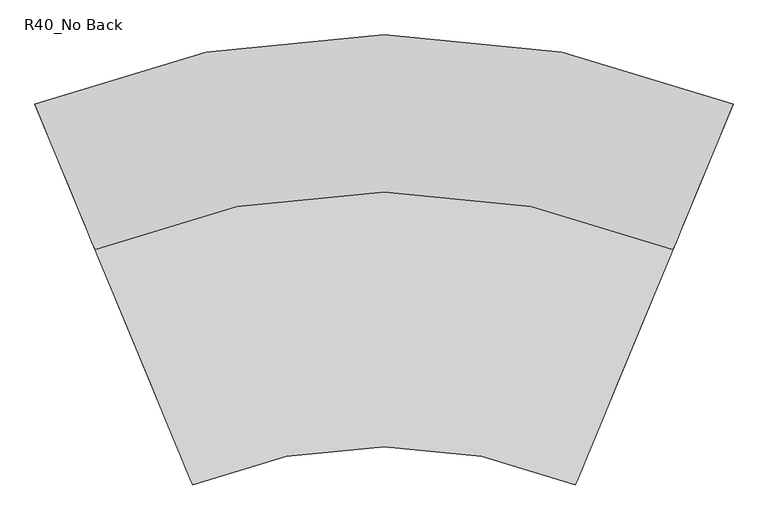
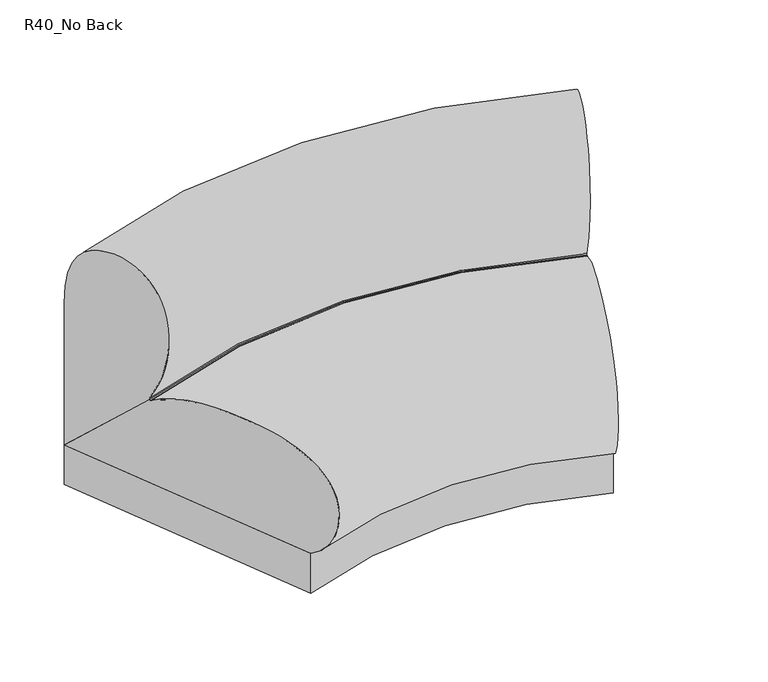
"""IFC4 building model written with IfcOpenShell, lengths in millimetres: furniture geometry, Memo_Candy_CurveInside_R40 : R40_No Back."""

from ifc_helpers import new_model, si_unit, point, frame, frame_2d, origin, origin_with_axes, place, context, project, spatial, polyline, circle_curve, ellipse_curve, trimmed, segment, composite_curve, outline, extrude, source, transform, mapped, element, save
from ifc_brep_helpers import plane_surface, cylinder_surface, revolved_surface, spline_curve, advanced_brep


def r40_no_back_c89d3c7e(model_context):
    return source(origin(), model_context, "Body", "SolidModel", [
        advanced_brep(
        [(-731.4419785, 254.5571445, 130.8862), (-628.9674702, 7.1617968, 382.770933), (-629.1154234, 7.5189875, 386.6180112), (-731.4419785, 254.5571445, 562.6862), (731.4419785, 254.5571445, 130.8862), (731.4419785, 254.5571445, 562.6862), (629.1154234, 7.5189875, 386.6180112), (628.9674702, 7.1617968, 382.770933)],
        [
            (0, 1),
            (1, 2, circle_curve(frame((-628.0824579, 5.0251882, 384.9463138), z_axis=(0.9238795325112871, 0.38268343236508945, 0.0), x_axis=(-0.38268343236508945, 0.9238795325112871, 0.0)), 3.175)),
            (2, 3, spline_curve(3, [(-629.1154234, 7.5189875, 386.6180112), (-616.613307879, -22.663789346, 439.369212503), (-609.589379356, -39.621052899, 487.129586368), (-602.93956843, -55.675116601, 603.825037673), (-606.819796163, -46.307418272, 674.263665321), (-634.747423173, 21.115837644, 768.908542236), (-660.286457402, 82.772520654, 789.248467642), (-708.619406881, 199.458582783, 756.110862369), (-731.4419785, 254.5571445, 709.516352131), (-731.4419785, 254.5571445, 562.6862)], [4, 2, 2, 2, 4], [0.0, 0.4185569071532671, 0.9855194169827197, 1.5950308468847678, 2.146168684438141])),
            (3, 0),
            (4, 5),
            (5, 6, spline_curve(3, [(731.4419785, 254.5571445, 562.6862), (731.4419785, 254.5571445, 709.516352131), (708.619406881, 199.458582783, 756.110862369), (660.286457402, 82.772520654, 789.248467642), (634.747423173, 21.115837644, 768.908542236), (606.819796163, -46.307418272, 674.263665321), (602.93956843, -55.675116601, 603.825037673), (609.589379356, -39.621052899, 487.129586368), (616.613307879, -22.663789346, 439.369212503), (629.1154234, 7.5189875, 386.6180112)], [4, 2, 2, 2, 4], [0.0, 0.5511378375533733, 1.1606492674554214, 1.727611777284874, 2.146168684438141])),
            (6, 7, circle_curve(frame((628.0824579, 5.0251882, 384.9463138), z_axis=(-0.9238795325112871, 0.38268343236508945, 0.0), x_axis=(0.38268343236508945, 0.9238795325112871, 0.0)), 3.175)),
            (7, 4),
            (7, 1, circle_curve(frame((0.0, -1511.3, 382.770933), z_axis=(0.0, 0.0, 1.0), x_axis=(-0.38268343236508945, 0.9238795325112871, 0.0)), 1643.5712053)),
            (0, 4, circle_curve(frame((0.0, -1511.3, 130.8862), z_axis=(0.0, 0.0, -1.0), x_axis=(-0.38268343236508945, 0.9238795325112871, 0.0)), 1911.35)),
            (6, 2, circle_curve(frame((0.0, -1511.3, 386.6180112), z_axis=(0.0, 0.0, 1.0), x_axis=(-0.38268343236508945, 0.9238795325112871, 0.0)), 1643.9578258)),
            (5, 3, circle_curve(frame((0.0, -1511.3, 562.6862), z_axis=(0.0, 0.0, 1.0), x_axis=(-0.38268343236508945, 0.9238795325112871, 0.0)), 1911.35)),
        ],
        [
            plane_surface(frame((0.0, -1511.3, -101.6), z_axis=(-0.923879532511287, -0.3826834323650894, 0.0), x_axis=(-0.3826834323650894, 0.923879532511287, 0.0))),
            plane_surface(frame((0.0, -1511.3, -101.6), z_axis=(0.923879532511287, -0.3826834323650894, 0.0), x_axis=(0.3826834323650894, 0.923879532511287, 0.0))),
            revolved_surface(polyline([(-628.9674702, 7.1617968, 382.770933), (-731.4419785, 254.5571445, 130.8862)]), (0.0, -1511.3, -101.6), (0.0, 0.0, 1.0)),
            revolved_surface(trimmed(ellipse_curve(frame((-628.0824579, 5.0251882, 384.9463138), z_axis=(-0.9238795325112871, -0.38268343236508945, 0.0), x_axis=(-0.38268343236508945, 0.9238795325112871, 0.0)), 3.175, 3.175), [point((-629.1154234, 7.5189875, 386.6180112))], [point((-628.9674702, 7.1617968, 382.770933))], True, "CARTESIAN"), (0.0, -1511.3, -101.6), (0.0, 0.0, 1.0)),
            revolved_surface(spline_curve(3, [(-731.4419785, 254.5571445, 562.6862), (-731.4419785, 254.5571445, 709.516352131), (-708.619406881, 199.458582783, 756.110862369), (-660.286457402, 82.772520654, 789.248467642), (-634.747423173, 21.115837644, 768.908542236), (-606.819796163, -46.307418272, 674.263665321), (-602.93956843, -55.675116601, 603.825037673), (-609.589379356, -39.621052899, 487.129586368), (-616.613307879, -22.663789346, 439.369212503), (-629.1154234, 7.5189875, 386.6180112)], [4, 2, 2, 2, 4], [0.0, 0.5511378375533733, 1.1606492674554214, 1.727611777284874, 2.146168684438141]), (0.0, -1511.3, -101.6), (0.0, 0.0, 1.0)),
            cylinder_surface(frame((0.0, -1511.3, -101.6), z_axis=(0.0, 0.0, 1.0), x_axis=(-0.38268343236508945, 0.9238795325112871, 0.0)), 1911.35),
        ],
        [
            (0, [[1, 2, 3, 4]]),
            (1, [[5, 6, 7, 8]]),
            (2, [[9, -1, 10, -8]]),
            (3, [[11, -2, -9, -7]]),
            (4, [[12, -3, -11, -6]]),
            (5, [[-10, -4, -12, -5]]),
        ],
    ),
        advanced_brep(
        [(-731.4419785, 254.5571445, 130.8862), (-434.9771234, -461.1723294, 130.8862), (-626.901641, 2.174444, 383.1727272), (-627.4163038, 3.4169498, 382.2910487), (-628.9674702, 7.1617968, 382.770933), (731.4419785, 254.5571445, 130.8862), (628.9674702, 7.1617968, 382.770933), (627.4163038, 3.4169498, 382.2910487), (626.901641, 2.174444, 383.1727272), (434.9771234, -461.1723294, 130.8862)],
        [
            (0, 1),
            (1, 2, spline_curve(3, [(-434.9771234, -461.1723294, 130.8862), (-407.685661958, -527.05974575, 170.417318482), (-399.983616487, -545.654128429, 240.606468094), (-402.32453207, -540.002658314, 357.685536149), (-417.575648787, -503.183205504, 393.569418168), (-457.445877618, -406.927958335, 443.81214514), (-483.082653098, -345.035307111, 454.422655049), (-553.600502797, -174.790157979, 449.084914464), (-596.174348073, -72.007803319, 435.812236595), (-626.901641, 2.174444, 383.1727272)], [4, 2, 2, 2, 4], [0.0, 0.4418974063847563, 1.0001856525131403, 1.637190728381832, 2.2072085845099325])),
            (2, 3),
            (3, 4, circle_curve(frame((-628.0824579, 5.0251882, 384.9463138), z_axis=(0.9238795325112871, 0.38268343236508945, 0.0), x_axis=(-0.38268343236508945, 0.9238795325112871, 0.0)), 3.175)),
            (4, 0),
            (5, 6),
            (6, 7, circle_curve(frame((628.0824579, 5.0251882, 384.9463138), z_axis=(-0.9238795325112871, 0.38268343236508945, 0.0), x_axis=(0.38268343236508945, 0.9238795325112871, 0.0)), 3.175)),
            (7, 8),
            (8, 9, spline_curve(3, [(626.901641, 2.174444, 383.1727272), (596.174348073, -72.007803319, 435.812236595), (553.600502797, -174.790157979, 449.084914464), (483.082653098, -345.035307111, 454.422655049), (457.445877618, -406.927958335, 443.81214514), (417.575648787, -503.183205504, 393.569418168), (402.32453207, -540.002658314, 357.685536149), (399.983616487, -545.654128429, 240.606468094), (407.685661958, -527.05974575, 170.417318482), (434.9771234, -461.1723294, 130.8862)], [4, 2, 2, 2, 4], [0.0, 0.5700178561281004, 1.2070229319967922, 1.7653111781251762, 2.2072085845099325])),
            (9, 5),
            (9, 1, circle_curve(frame((0.0, -1511.3, 130.8862), z_axis=(0.0, 0.0, 1.0), x_axis=(-0.38268343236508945, 0.9238795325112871, 0.0)), 1136.65)),
            (0, 5, circle_curve(frame((0.0, -1511.3, 130.8862), z_axis=(0.0, 0.0, -1.0), x_axis=(-0.38268343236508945, 0.9238795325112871, 0.0)), 1911.35)),
            (8, 2, circle_curve(frame((0.0, -1511.3, 383.1727272), z_axis=(0.0, 0.0, 1.0), x_axis=(-0.38268343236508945, 0.9238795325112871, 0.0)), 1638.1729335)),
            (7, 3, circle_curve(frame((0.0, -1511.3, 382.2910487), z_axis=(0.0, 0.0, 1.0), x_axis=(-0.38268343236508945, 0.9238795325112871, 0.0)), 1639.5178121)),
            (6, 4, circle_curve(frame((0.0, -1511.3, 382.770933), z_axis=(0.0, 0.0, 1.0), x_axis=(-0.38268343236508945, 0.9238795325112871, 0.0)), 1643.5712053)),
        ],
        [
            plane_surface(frame((0.0, -1511.3, -173.9138), z_axis=(-0.923879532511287, -0.3826834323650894, 0.0), x_axis=(-0.3826834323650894, 0.923879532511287, 0.0))),
            plane_surface(frame((0.0, -1511.3, -173.9138), z_axis=(0.923879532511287, -0.3826834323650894, 0.0), x_axis=(0.3826834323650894, 0.923879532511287, 0.0))),
            plane_surface(frame((0.0, -1511.3, 130.8862), z_axis=(0.0, 0.0, -1.0), x_axis=(-0.3826834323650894, 0.923879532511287, 0.0))),
            revolved_surface(spline_curve(3, [(-626.901641, 2.174444, 383.1727272), (-596.174348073, -72.007803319, 435.812236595), (-553.600502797, -174.790157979, 449.084914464), (-483.082653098, -345.035307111, 454.422655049), (-457.445877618, -406.927958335, 443.81214514), (-417.575648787, -503.183205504, 393.569418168), (-402.32453207, -540.002658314, 357.685536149), (-399.983616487, -545.654128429, 240.606468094), (-407.685661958, -527.05974575, 170.417318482), (-434.9771234, -461.1723294, 130.8862)], [4, 2, 2, 2, 4], [0.0, 0.5700178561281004, 1.2070229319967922, 1.7653111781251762, 2.2072085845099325]), (0.0, -1511.3, -173.9138), (0.0, 0.0, 1.0)),
            revolved_surface(polyline([(-627.4163038, 3.4169498, 382.2910487), (-626.901641, 2.174444, 383.1727272)]), (0.0, -1511.3, -173.9138), (0.0, 0.0, 1.0)),
            revolved_surface(trimmed(ellipse_curve(frame((-628.0824579, 5.0251882, 384.9463138), z_axis=(-0.9238795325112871, -0.38268343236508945, 0.0), x_axis=(-0.38268343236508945, 0.9238795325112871, 0.0)), 3.175, 3.175), [point((-628.9674702, 7.1617968, 382.770933))], [point((-627.4163038, 3.4169498, 382.2910487))], True, "CARTESIAN"), (0.0, -1511.3, -173.9138), (0.0, 0.0, 1.0)),
            revolved_surface(polyline([(-731.4419785, 254.5571445, 130.8862), (-628.9674702, 7.1617968, 382.770933)]), (0.0, -1511.3, -173.9138), (0.0, 0.0, 1.0)),
        ],
        [
            (0, [[1, 2, 3, 4, 5]]),
            (1, [[6, 7, 8, 9, 10]]),
            (2, [[11, -1, 12, -10]]),
            (3, [[13, -2, -11, -9]]),
            (4, [[14, -3, -13, -8]]),
            (5, [[15, -4, -14, -7]]),
            (6, [[-12, -5, -15, -6]]),
        ],
    ),
        extrude(outline(composite_curve([segment(trimmed(circle_curve(frame_2d((658.8659727, 228.6833139)), 14.2875), [point((644.5784727, 228.6833139))], [point((673.1534727, 228.6833139))], False, "CARTESIAN"), True, "CONTINUOUS"), segment(trimmed(circle_curve(frame_2d((658.8659727, 228.6833139)), 14.2875), [point((673.1534727, 228.6833139))], [point((644.5784727, 228.6833139))], False, "CARTESIAN"), True, "CONTINUOUS")], self_intersect=False)), origin_with_axes(), (0.0, 0.0, 1.0), 10.2362),
        extrude(outline(composite_curve([segment(trimmed(circle_curve(frame_2d((400.9566853, -393.9647854)), 14.2875), [point((386.6691853, -393.9647854))], [point((415.2441853, -393.9647854))], False, "CARTESIAN"), True, "CONTINUOUS"), segment(trimmed(circle_curve(frame_2d((400.9566853, -393.9647854)), 14.2875), [point((415.2441853, -393.9647854))], [point((386.6691853, -393.9647854))], False, "CARTESIAN"), True, "CONTINUOUS")], self_intersect=False)), origin_with_axes(), (0.0, 0.0, 1.0), 10.2362),
        extrude(outline(composite_curve([segment(trimmed(circle_curve(frame_2d((-658.8659727, 228.6833139)), 14.2875), [point((-644.5784727, 228.6833139))], [point((-673.1534727, 228.6833139))], False, "CARTESIAN"), True, "CONTINUOUS"), segment(trimmed(circle_curve(frame_2d((-658.8659727, 228.6833139)), 14.2875), [point((-673.1534727, 228.6833139))], [point((-644.5784727, 228.6833139))], False, "CARTESIAN"), True, "CONTINUOUS")], self_intersect=False)), origin_with_axes(), (0.0, 0.0, 1.0), 10.2362),
        extrude(outline(composite_curve([segment(trimmed(circle_curve(frame_2d((-400.9566853, -393.9647854)), 14.2875), [point((-386.6691853, -393.9647854))], [point((-415.2441853, -393.9647854))], False, "CARTESIAN"), True, "CONTINUOUS"), segment(trimmed(circle_curve(frame_2d((-400.9566853, -393.9647854)), 14.2875), [point((-415.2441853, -393.9647854))], [point((-386.6691853, -393.9647854))], False, "CARTESIAN"), True, "CONTINUOUS")], self_intersect=False)), origin_with_axes(), (0.0, 0.0, 1.0), 10.2362),
        extrude(outline(composite_curve([segment(trimmed(circle_curve(frame_2d((0.0, 349.25)), 14.2875), [point((14.2875, 349.25))], [point((-14.2875, 349.25))], False, "CARTESIAN"), True, "CONTINUOUS"), segment(trimmed(circle_curve(frame_2d((0.0, 349.25)), 14.2875), [point((-14.2875, 349.25))], [point((14.2875, 349.25))], False, "CARTESIAN"), True, "CONTINUOUS")], self_intersect=False)), origin_with_axes(), (0.0, 0.0, 1.0), 10.2362),
        extrude(outline(composite_curve([segment(trimmed(circle_curve(frame_2d((0.0, -1511.3)), 1911.35), [point((-731.4419785, 254.5571445))], [point((731.4419785, 254.5571445))], False, "CARTESIAN"), True, "CONTINUOUS"), segment(polyline([(731.4419785, 254.5571445), (434.9771234, -461.1723294)]), True, "CONTINUOUS"), segment(trimmed(circle_curve(frame_2d((0.0, -1511.3)), 1136.65), [point((434.9771234, -461.1723294))], [point((-434.9771234, -461.1723294))], True, "CARTESIAN"), True, "CONTINUOUS"), segment(polyline([(-434.9771234, -461.1723294), (-731.4419785, 254.5571445)]), True, "CONTINUOUS")], self_intersect=False)), frame((0.0, 0.0, 10.2362), z_axis=(0.0, 0.0, 1.0), x_axis=(1.0, 0.0, 0.0)), (0.0, 0.0, 1.0), 120.65),
    ])


if __name__ == "__main__":
    model = new_model("IFC4")
    model_context = context("Model", 3, world=origin())
    ifc_project = project(units=[si_unit("LENGTHUNIT", "METRE", prefix="MILLI")], contexts=[model_context])
    site = spatial("IfcSite", under=ifc_project)
    building = spatial("IfcBuilding", under=site)
    placement = place(None, origin())
    r40_no_back_shape = r40_no_back_c89d3c7e(model_context)
    element("IfcFurniture", 1, ObjectType="Memo_Candy_CurveInside_R40 : R40_No Back", at=placement, inside=building, context=model_context, shape_type="MappedRepresentation", body=[
        mapped(r40_no_back_shape, transform((0.0, 0.0, 0.0), x_axis=(1.0, 0.0, 0.0), y_axis=(0.0, 1.0, 0.0), z_axis=(0.0, 0.0, 1.0))),
    ])
    save(model, "model.ifc")
